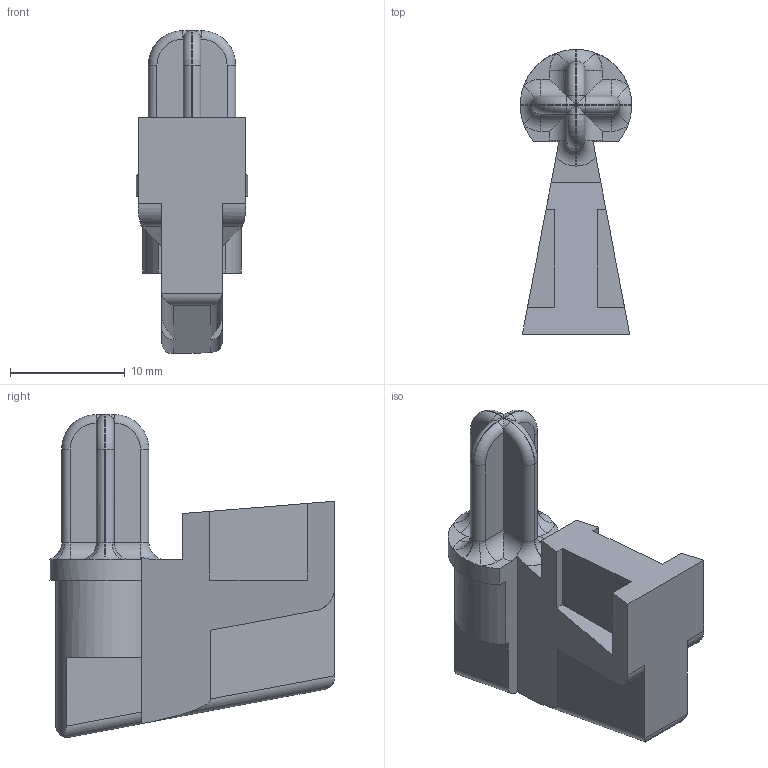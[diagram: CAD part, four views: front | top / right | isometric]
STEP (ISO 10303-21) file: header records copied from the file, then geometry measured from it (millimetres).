
FILE_DESCRIPTION(/* description */ (''),/* implementation_level */ '2;1');
FILE_NAME(/* name */ 'G:/Developer/Repos/AR-15-22lrMag/CMMG Replacement Parts/Follower v6.step',/* time_stamp */ '2020-03-23T02:04:45-04:00',/* author */ (''),/* organization */ (''),/* preprocessor_version */ 'ST-DEVELOPER v18',/* originating_system */ 'Autodesk Translation Framework v8.12.0.6',/* authorisation */ '');
FILE_SCHEMA (('AUTOMOTIVE_DESIGN { 1 0 10303 214 3 1 1 }'));
Length unit declared in the file: millimetre
Products named in the file (1): Follower
Bounding box: 9.7 x 24.8 x 28.09 mm (x, y, z)
Volume: 2338.1 mm3; surface area: 1697.5 mm2
Topology: 1 solids, 1 shells, 110 faces, 278 edges, 170 vertices
Faces by surface type: plane 44, cylinder 43, torus 22, bspline 1
Entity records: 3414 total; most frequent: CARTESIAN_POINT 691, DIRECTION 593, ORIENTED_EDGE 556, EDGE_CURVE 278, AXIS2_PLACEMENT_3D 222, VERTEX_POINT 170, LINE 149, VECTOR 149
